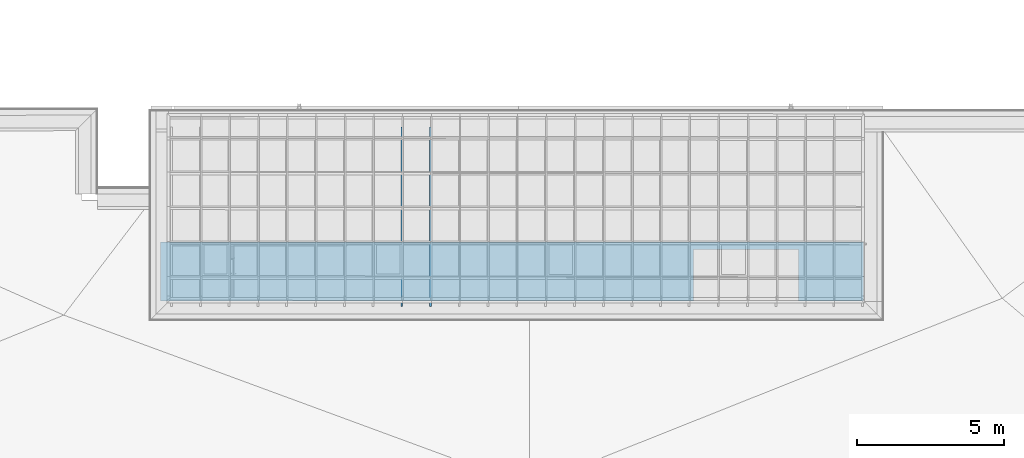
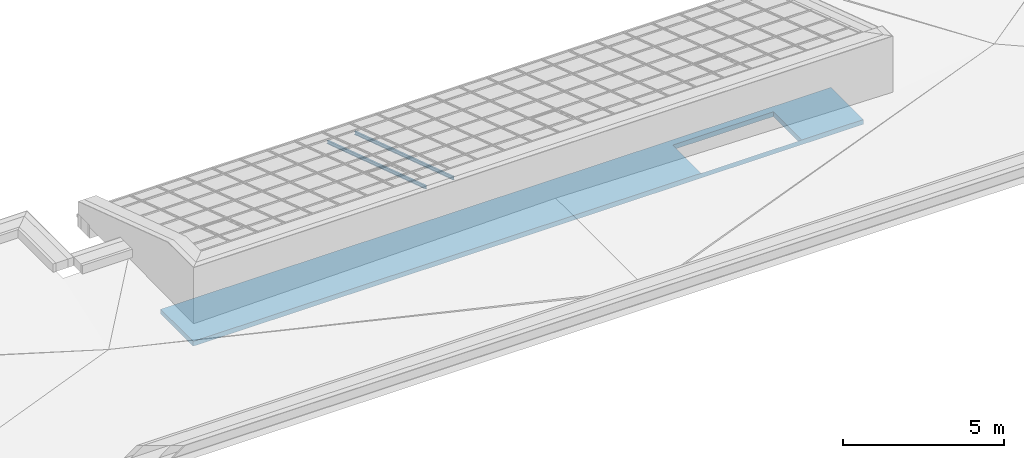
# One storey, part 5 of 47: 2 beams, 1 member, 1 opening.
"""IFC2X3 building model written with IfcOpenShell, lengths in millimetres."""

import ifcopenshell
import ifcopenshell.guid

model = None  # the IFC model being written
_history = None  # IfcOwnerHistory: only IFC2X3 demands one
_inside = {}  # id of a spatial element -> (the spatial element, [elements in it])
_under = {}  # id of a project, library or spatial element -> (it, [spatial elements below it])
_declared = {}  # id of a project -> (the project, [libraries it declares])
_typed = {}  # id of a type object -> (the type object, [elements of that type])
_made_of = {}  # id of a material, layer set ... -> (it, [elements and type objects made of it])


def new_model(schema):
    """Start an empty IFC model of exactly this schema.

    Asked for "IFC4X3", IfcOpenShell would pick the latest addendum, in which some entities
    have other attributes; the version numbers below select the first issue.
    IFC2X3 requires an IfcOwnerHistory on every rooted entity: one is made here for all.
    """
    global model, _history
    if schema == "IFC4X3":
        model = ifcopenshell.file(schema_version=(4, 3, 0, 0))
    else:
        model = ifcopenshell.file(schema=schema)
    _inside.clear()
    _under.clear()
    _declared.clear()
    _typed.clear()
    _made_of.clear()
    _history = None
    if model.schema == "IFC2X3":
        org = make("IfcOrganization", Name="unknown")
        user = make(
            "IfcPersonAndOrganization",
            ThePerson=make("IfcPerson", FamilyName="unknown"),
            TheOrganization=org,
        )
        app = make(
            "IfcApplication",
            ApplicationDeveloper=org,
            Version="unknown",
            ApplicationFullName="unknown",
            ApplicationIdentifier="unknown",
        )
        _history = make(
            "IfcOwnerHistory",
            OwningUser=user,
            OwningApplication=app,
            ChangeAction="ADDED",
            CreationDate=0,
        )
    return model


def make(cls, **values):
    """One entity of the class cls with the attributes given. An attribute that is None is left unset."""
    return model.create_entity(
        cls, **{name: value for name, value in values.items() if value is not None}
    )


def entity(cls, *values):
    """Any entity or typed value of the class cls, its attributes in the order of the schema. None: left unset."""
    e = model.create_entity(cls)
    for i, value in enumerate(values):
        if value is not None:
            e[i] = value
    return e


def rooted(cls, **values):
    """An entity with a GlobalId (a new one), such as an element, a storey or a relation."""
    return make(cls, GlobalId=ifcopenshell.guid.new(), OwnerHistory=_history, **values)


def si_unit(unit_type, name, prefix=None):
    """IfcSIUnit, for example si_unit("LENGTHUNIT", "METRE", prefix="MILLI")."""
    return make("IfcSIUnit", UnitType=unit_type, Prefix=prefix, Name=name)


def converted_unit(unit_type, name, factor, base, dimensions=None, offset=None):
    """IfcConversionBasedUnit, such as the inch: factor (a typed value) times the base unit."""
    return make(
        "IfcConversionBasedUnit"
        if offset is None
        else "IfcConversionBasedUnitWithOffset",
        ConversionOffset=offset,
        Dimensions=None
        if dimensions is None
        else entity("IfcDimensionalExponents", *dimensions),
        UnitType=unit_type,
        Name=name,
        ConversionFactor=make(
            "IfcMeasureWithUnit", ValueComponent=factor, UnitComponent=base
        ),
    )


def derived_unit(unit_type, elements):
    """IfcDerivedUnit: a product of units, each with its exponent."""
    return make(
        "IfcDerivedUnit",
        Elements=[
            make("IfcDerivedUnitElement", Unit=unit, Exponent=power)
            for unit, power in elements
        ],
        UnitType=unit_type,
    )


def money_unit(currency):
    """IfcMonetaryUnit."""
    return make("IfcMonetaryUnit", Currency=currency)


def assignment(units):
    """IfcUnitAssignment: the units of a project."""
    return None if units is None else make("IfcUnitAssignment", Units=units)


def point(xyz):
    """IfcCartesianPoint."""
    return None if xyz is None else make("IfcCartesianPoint", Coordinates=xyz)


def direction(xyz):
    """IfcDirection."""
    return None if xyz is None else make("IfcDirection", DirectionRatios=xyz)


def frame(location, z_axis=None, x_axis=None):
    """IfcAxis2Placement3D, a coordinate frame: its origin and axes. An axis left out is left unset."""
    return make(
        "IfcAxis2Placement3D",
        Location=point(location),
        Axis=direction(z_axis),
        RefDirection=direction(x_axis),
    )


def frame_2d(location, x_axis=None):
    """IfcAxis2Placement2D, a coordinate frame in the plane: its origin and x axis."""
    return make(
        "IfcAxis2Placement2D", Location=point(location), RefDirection=direction(x_axis)
    )


def origin_with_axes():
    """The frame at (0, 0, 0) with the z axis (0, 0, 1) and the x axis (1, 0, 0) written out."""
    return frame((0.0, 0.0, 0.0), z_axis=(0.0, 0.0, 1.0), x_axis=(1.0, 0.0, 0.0))


def place(relative_to, where):
    """IfcLocalPlacement: puts the frame where relative to a parent placement (None: the world)."""
    return make(
        "IfcLocalPlacement", PlacementRelTo=relative_to, RelativePlacement=where
    )


def context(
    kind, dimensions, precision=None, world=None, true_north=None, identifier=None
):
    """IfcGeometricRepresentationContext, for example the 3D "Model" context."""
    return make(
        "IfcGeometricRepresentationContext",
        ContextIdentifier=identifier,
        ContextType=kind,
        CoordinateSpaceDimension=dimensions,
        Precision=precision,
        WorldCoordinateSystem=world,
        TrueNorth=true_north,
    )


def subcontext(parent, identifier, kind, view, scale=None):
    """IfcGeometricRepresentationSubContext, for example "Body" below "Model"."""
    return make(
        "IfcGeometricRepresentationSubContext",
        ContextIdentifier=identifier,
        ContextType=kind,
        ParentContext=parent,
        TargetScale=scale,
        TargetView=view,
    )


def project(units=None, contexts=None):
    """IfcProject with its units and contexts."""
    return rooted(
        "IfcProject",
        Name="project",
        RepresentationContexts=contexts,
        UnitsInContext=assignment(units),
    )


def spatial(cls, under=None, at=None, **own):
    """A site, building, storey or space (cls), placed at a placement, below another one or the project."""
    s = rooted(cls, ObjectPlacement=at, **own)
    if under is not None:
        _under.setdefault(under.id(), (under, []))[1].append(s)
    return s


def polyline(points):
    """IfcPolyline through the points."""
    return make("IfcPolyline", Points=[point(p) for p in points])


def circle_curve(where, radius):
    """IfcCircle in the frame where."""
    return make("IfcCircle", Position=where, Radius=radius)


def parameter(value):
    """IfcParameterValue: where a trimmed curve begins or ends, as a parameter of its basis curve."""
    return model.create_entity("IfcParameterValue", value)


def trimmed(basis, trim1, trim2, sense, master):
    """IfcTrimmedCurve: the piece of a basis curve between two trims."""
    return make(
        "IfcTrimmedCurve",
        BasisCurve=basis,
        Trim1=trim1,
        Trim2=trim2,
        SenseAgreement=sense,
        MasterRepresentation=master,
    )


def segment(curve, same_sense, transition):
    """IfcCompositeCurveSegment."""
    return make(
        "IfcCompositeCurveSegment",
        Transition=transition,
        SameSense=same_sense,
        ParentCurve=curve,
    )


def composite_curve(segments, self_intersect=None):
    """IfcCompositeCurve: segments joined end to end."""
    return make("IfcCompositeCurve", Segments=segments, SelfIntersect=self_intersect)


def outline(outer, holes=None, kind="AREA"):
    """IfcArbitraryClosedProfileDef: a profile drawn as a closed curve; with holes, ...WithVoids."""
    if holes is None:
        return make("IfcArbitraryClosedProfileDef", ProfileType=kind, OuterCurve=outer)
    return make(
        "IfcArbitraryProfileDefWithVoids",
        ProfileType=kind,
        OuterCurve=outer,
        InnerCurves=holes,
    )


def extrude(swept, where, along, depth):
    """IfcExtrudedAreaSolid: the profile swept, set in the frame where, extruded along a direction by depth."""
    return make(
        "IfcExtrudedAreaSolid",
        SweptArea=swept,
        Position=where,
        ExtrudedDirection=direction(along),
        Depth=depth,
    )


def clip(a, b, op="DIFFERENCE"):
    """IfcBooleanClippingResult: the solid a cut by the half space b."""
    return make(
        "IfcBooleanClippingResult", Operator=op, FirstOperand=a, SecondOperand=b
    )


def halfspace(plane, agree):
    """IfcHalfSpaceSolid: all space on one side of the plane z = 0 of the frame plane."""
    return make(
        "IfcHalfSpaceSolid",
        BaseSurface=make("IfcPlane", Position=plane),
        AgreementFlag=agree,
    )


def shape(context_of_items, identifier, shape_type, items):
    """IfcShapeRepresentation: the items that make up one representation, for example the "Body"."""
    return make(
        "IfcShapeRepresentation",
        ContextOfItems=context_of_items,
        RepresentationIdentifier=identifier,
        RepresentationType=shape_type,
        Items=items,
    )


def material(Name=None, Category=None):
    """IfcMaterial."""
    return make("IfcMaterial", Name=Name, Category=Category)


def made_of(thing, what):
    """Note that an element or type object is made of a material, layer set ...; save() writes the relation."""
    if what is not None:
        _made_of.setdefault(what.id(), (what, []))[1].append(thing)
    return thing


def type_object(cls, material=None, **own):
    """A type object (cls), such as IfcWallType, which elements share."""
    return made_of(rooted(cls, **own), material)


def element(
    cls,
    number,
    at=None,
    inside=None,
    cuts=None,
    type_object=None,
    material=None,
    context=None,
    identifier="Body",
    shape_type=None,
    held_by="IfcProductDefinitionShape",
    body=None,
    shapes=None,
    **own,
):
    """One element of the class cls, such as IfcWall. Its Tag is "e" and its number.

    at: its placement. inside: the storey or other place that contains it. cuts: it is an
    opening in that element (IfcRelVoidsElement). A single representation is given by context,
    identifier, shape_type and body (its items); several are given by shapes. held_by: the class
    of the entity that holds the representations. save() writes the other relations.
    """
    e = rooted(cls, Tag="e%d" % number, ObjectPlacement=at, **own)
    if body is not None:
        shapes = [shape(context, identifier, shape_type, body)]
    if shapes is not None:
        e.Representation = make(held_by, Representations=shapes)
    if inside is not None:
        _inside.setdefault(inside.id(), (inside, []))[1].append(e)
    if cuts is not None:
        rooted(
            "IfcRelVoidsElement", RelatingBuildingElement=cuts, RelatedOpeningElement=e
        )
    if type_object is not None:
        _typed.setdefault(type_object.id(), (type_object, []))[1].append(e)
    return made_of(e, material)


def aggregate(whole, parts):
    """IfcRelAggregates: a whole, such as a stair, and the parts it consists of."""
    return rooted("IfcRelAggregates", RelatingObject=whole, RelatedObjects=parts)


def save(model, path):
    """Write the relations noted so far, then the file.

    IfcRelAggregates (storeys below a building ...), IfcRelContainedInSpatialStructure (elements
    in a storey), IfcRelDefinesByType, IfcRelAssociatesMaterial and IfcRelDeclares: one each for
    every whole, place, type object, material and project.
    """
    for whole, parts in _under.values():
        aggregate(whole, parts)
    for where, things in _inside.values():
        rooted(
            "IfcRelContainedInSpatialStructure",
            RelatedElements=things,
            RelatingStructure=where,
        )
    for kind, things in _typed.values():
        rooted("IfcRelDefinesByType", RelatedObjects=things, RelatingType=kind)
    for what, things in _made_of.values():
        rooted("IfcRelAssociatesMaterial", RelatedObjects=things, RelatingMaterial=what)
    for by, libraries in _declared.values():
        rooted("IfcRelDeclares", RelatingContext=by, RelatedDefinitions=libraries)
    model.write(path)


model = new_model("IFC2X3")

# Units and contexts
model_context = context("Model", 3, precision=1e-05, world=origin_with_axes(), true_north=direction((0.0, 1.0)))
body_context = subcontext(model_context, "Body", "Model", "MODEL_VIEW")
ifc_project = project(units=[si_unit("LENGTHUNIT", "METRE", prefix="MILLI"), si_unit("AREAUNIT", "SQUARE_METRE"), si_unit("VOLUMEUNIT", "CUBIC_METRE"), converted_unit("PLANEANGLEUNIT", "DEGREE", entity("IfcPlaneAngleMeasure", 0.0174532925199), si_unit("PLANEANGLEUNIT", "RADIAN"), dimensions=[0, 0, 0, 0, 0, 0, 0]), si_unit("SOLIDANGLEUNIT", "STERADIAN"), money_unit("EUR"), converted_unit("TIMEUNIT", "Year", entity("IfcTimeMeasure", 31556926.0), si_unit("TIMEUNIT", "SECOND"), dimensions=[0, 0, 1, 0, 0, 0, 0]), si_unit("MASSUNIT", "GRAM", prefix="KILO"), si_unit("THERMODYNAMICTEMPERATUREUNIT", "DEGREE_CELSIUS"), si_unit("LUMINOUSINTENSITYUNIT", "LUMEN"), si_unit("ENERGYUNIT", "JOULE", prefix="MEGA"), derived_unit("THERMALCONDUCTANCEUNIT", [(si_unit("POWERUNIT", "WATT"), 1), (si_unit("LENGTHUNIT", "METRE"), -1), (si_unit("THERMODYNAMICTEMPERATUREUNIT", "KELVIN"), -1)]), derived_unit("SPECIFICHEATCAPACITYUNIT", [(si_unit("ENERGYUNIT", "JOULE"), 1), (si_unit("MASSUNIT", "GRAM", prefix="KILO"), -1), (si_unit("THERMODYNAMICTEMPERATUREUNIT", "KELVIN"), -1)]), derived_unit("MASSDENSITYUNIT", [(si_unit("MASSUNIT", "GRAM", prefix="KILO"), 1), (si_unit("VOLUMEUNIT", "CUBIC_METRE"), -1)])], contexts=[model_context])

# Site, building, storey
site_placement = place(None, origin_with_axes())
site = spatial("IfcSite", under=ifc_project, at=site_placement, Name="Site", CompositionType="ELEMENT")
building_placement = place(site_placement, origin_with_axes())
building = spatial("IfcBuilding", under=site, at=building_placement, Name="Building", CompositionType="ELEMENT")
storey_placement = place(building_placement, frame((0.0, 0.0, 6000.0), z_axis=(0.0, 0.0, 1.0), x_axis=(1.0, 0.0, 0.0)))
storey = spatial("IfcBuildingStorey", under=building, at=storey_placement, Name="KATUSEPLAAN", CompositionType="ELEMENT", Elevation=6000.0)

# Beams
ifc_material_1 = material(Name="Teras (1)")
beam_type = type_object("IfcBeamType", Name="IPE 120", PredefinedType="NOTDEFINED")
beam_1_placement = place(storey_placement, frame((73083.081763, 46947.8063411, 711.763952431), z_axis=(0.0, 0.0, 1.0), x_axis=(-1.0, 0.0, 0.0)))
element("IfcBeam", 1, at=beam_1_placement, inside=storey, type_object=beam_type, material=ifc_material_1, Name="I Joist - Steel", ObjectType="I Joist - Steel 64 x 120", context=body_context, shape_type="Clipping", body=[
    clip(clip(extrude(outline(composite_curve([segment(polyline([(32.0018479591, -120.000212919), (32.0018479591, -117.505222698)]), True, "CONTINUOUS"), segment(trimmed(circle_curve(frame_2d((27.3321376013, -117.498683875), x_axis=(0.999999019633, -0.00140026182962)), 4.66971493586), [point((32.0018479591, -117.505222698)), parameter(0.0)], [point((31.7461003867, -115.974488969)), parameter(19.1306436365)], True, "CARTESIAN"), True, "CONTINUOUS"), segment(trimmed(circle_curve(frame_2d((27.8471066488, -117.309508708), x_axis=(0.94607823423, 0.323938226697)), 4.12121703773), [point((31.7461003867, -115.974488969)), parameter(0.0)], [point((31.017792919, -114.676795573)), parameter(20.802576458)], True, "CARTESIAN"), True, "CONTINUOUS"), segment(trimmed(circle_curve(frame_2d((28.4090653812, -116.837495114), x_axis=(0.770140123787, 0.637874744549)), 3.38734141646), [point((31.017792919, -114.676795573)), parameter(0.0)], [point((29.9278037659, -113.809704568)), parameter(23.7281511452)], True, "CARTESIAN"), True, "CONTINUOUS"), segment(trimmed(circle_curve(frame_2d((28.6333599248, -116.404648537), x_axis=(0.446378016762, 0.89484449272)), 2.89988259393), [point((29.9278037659, -113.809704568)), parameter(0.0)], [point((29.1110817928, -113.544386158)), parameter(17.0295027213)], True, "CARTESIAN"), True, "CONTINUOUS"), segment(polyline([(29.1110817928, -113.544386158), (5.24260801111, -109.566039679)]), True, "CONTINUOUS"), segment(trimmed(circle_curve(frame_2d((5.72032987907, -106.7057773), x_axis=(-0.446378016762, -0.89484449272)), 2.89988259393), [point((5.24260801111, -109.566039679)), parameter(17.0295027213)], [point((4.42588603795, -109.300721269)), parameter(0.0)], False, "CARTESIAN"), True, "CONTINUOUS"), segment(trimmed(circle_curve(frame_2d((5.94462442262, -106.272930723), x_axis=(-0.770140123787, -0.637874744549)), 3.38734141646), [point((4.42588603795, -109.300721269)), parameter(23.7281511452)], [point((3.33589688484, -108.433630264)), parameter(0.0)], False, "CARTESIAN"), True, "CONTINUOUS"), segment(trimmed(circle_curve(frame_2d((6.5065831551, -105.800917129), x_axis=(-0.94607823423, -0.323938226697)), 4.12121703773), [point((3.33589688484, -108.433630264)), parameter(20.802576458)], [point((2.60758941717, -107.135936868)), parameter(0.0)], False, "CARTESIAN"), True, "CONTINUOUS"), segment(trimmed(circle_curve(frame_2d((7.02155220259, -105.611741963), x_axis=(-0.999999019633, 0.00140026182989)), 4.66971493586), [point((2.60758941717, -107.135936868)), parameter(19.1306436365)], [point((2.35184184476, -105.605203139)), parameter(0.0)], False, "CARTESIAN"), True, "CONTINUOUS"), segment(polyline([(2.35184184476, -105.605203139), (2.35184184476, -14.3950097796)]), True, "CONTINUOUS"), segment(trimmed(circle_curve(frame_2d((7.02155220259, -14.3884709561), x_axis=(-0.945231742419, 0.326399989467)), 4.66971493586), [point((2.35184184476, -14.3950097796)), parameter(19.1306436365)], [point((2.60758941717, -12.8642760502)), parameter(0.0)], False, "CARTESIAN"), True, "CONTINUOUS"), segment(trimmed(circle_curve(frame_2d((6.5065831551, -14.1992957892), x_axis=(-0.769356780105, 0.638819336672)), 4.12121703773), [point((2.60758941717, -12.8642760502)), parameter(20.802576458)], [point((3.33589688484, -11.5665826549)), parameter(0.0)], False, "CARTESIAN"), True, "CONTINUOUS"), segment(trimmed(circle_curve(frame_2d((5.94462442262, -13.7272821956), x_axis=(-0.44835704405, 0.893854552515)), 3.38734141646), [point((3.33589688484, -11.5665826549)), parameter(23.7281511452)], [point((4.42588603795, -10.6994916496)), parameter(0.0)], False, "CARTESIAN"), True, "CONTINUOUS"), segment(trimmed(circle_curve(frame_2d((5.72032987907, -13.2944356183), x_axis=(-0.164738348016, 0.986337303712)), 2.89988259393), [point((4.42588603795, -10.6994916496)), parameter(17.0295027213)], [point((5.24260801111, -10.4341732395)), parameter(0.0)], False, "CARTESIAN"), True, "CONTINUOUS"), segment(polyline([(5.24260801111, -10.4341732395), (29.1110817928, -6.45582676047)]), True, "CONTINUOUS"), segment(trimmed(circle_curve(frame_2d((28.6333599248, -3.59556438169), x_axis=(0.164738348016, -0.986337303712)), 2.89988259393), [point((29.1110817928, -6.45582676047)), parameter(0.0)], [point((29.9278037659, -6.19050835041)), parameter(17.0295027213)], True, "CARTESIAN"), True, "CONTINUOUS"), segment(trimmed(circle_curve(frame_2d((28.4090653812, -3.16271780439), x_axis=(0.44835704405, -0.893854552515)), 3.38734141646), [point((29.9278037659, -6.19050835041)), parameter(0.0)], [point((31.017792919, -5.32341734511)), parameter(23.7281511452)], True, "CARTESIAN"), True, "CONTINUOUS"), segment(trimmed(circle_curve(frame_2d((27.8471066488, -2.69070421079), x_axis=(0.769356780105, -0.638819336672)), 4.12121703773), [point((31.017792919, -5.32341734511)), parameter(0.0)], [point((31.7461003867, -4.02572394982)), parameter(20.802576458)], True, "CARTESIAN"), True, "CONTINUOUS"), segment(trimmed(circle_curve(frame_2d((27.3321376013, -2.50152904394), x_axis=(0.945231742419, -0.326399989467)), 4.66971493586), [point((31.7461003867, -4.02572394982)), parameter(0.0)], [point((32.0018479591, -2.49499022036)), parameter(19.1306436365)], True, "CARTESIAN"), True, "CONTINUOUS"), segment(polyline([(32.0018479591, -2.49499022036), (32.0018479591, 0.0), (-32.0018479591, 0.0), (-32.0018479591, -2.49499022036)]), True, "CONTINUOUS"), segment(trimmed(circle_curve(frame_2d((-27.3321376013, -2.50152904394), x_axis=(-0.999999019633, 0.00140026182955)), 4.66971493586), [point((-32.0018479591, -2.49499022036)), parameter(0.0)], [point((-31.7461003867, -4.02572394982)), parameter(19.1306436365)], True, "CARTESIAN"), True, "CONTINUOUS"), segment(trimmed(circle_curve(frame_2d((-27.8471066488, -2.69070421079), x_axis=(-0.94607823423, -0.323938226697)), 4.12121703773), [point((-31.7461003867, -4.02572394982)), parameter(0.0)], [point((-31.017792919, -5.32341734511)), parameter(20.802576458)], True, "CARTESIAN"), True, "CONTINUOUS"), segment(trimmed(circle_curve(frame_2d((-28.4090653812, -3.16271780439), x_axis=(-0.770140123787, -0.637874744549)), 3.38734141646), [point((-31.017792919, -5.32341734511)), parameter(0.0)], [point((-29.9278037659, -6.19050835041)), parameter(23.7281511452)], True, "CARTESIAN"), True, "CONTINUOUS"), segment(trimmed(circle_curve(frame_2d((-28.6333599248, -3.59556438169), x_axis=(-0.446378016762, -0.89484449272)), 2.89988259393), [point((-29.9278037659, -6.19050835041)), parameter(0.0)], [point((-29.1110817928, -6.45582676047)), parameter(17.0295027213)], True, "CARTESIAN"), True, "CONTINUOUS"), segment(polyline([(-29.1110817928, -6.45582676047), (-5.24260801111, -10.4341732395)]), True, "CONTINUOUS"), segment(trimmed(circle_curve(frame_2d((-5.72032987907, -13.2944356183), x_axis=(0.446378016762, 0.89484449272)), 2.89988259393), [point((-5.24260801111, -10.4341732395)), parameter(17.0295027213)], [point((-4.42588603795, -10.6994916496)), parameter(0.0)], False, "CARTESIAN"), True, "CONTINUOUS"), segment(trimmed(circle_curve(frame_2d((-5.94462442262, -13.7272821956), x_axis=(0.770140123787, 0.637874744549)), 3.38734141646), [point((-4.42588603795, -10.6994916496)), parameter(23.7281511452)], [point((-3.33589688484, -11.5665826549)), parameter(0.0)], False, "CARTESIAN"), True, "CONTINUOUS"), segment(trimmed(circle_curve(frame_2d((-6.5065831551, -14.1992957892), x_axis=(0.94607823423, 0.323938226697)), 4.12121703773), [point((-3.33589688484, -11.5665826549)), parameter(20.802576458)], [point((-2.60758941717, -12.8642760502)), parameter(0.0)], False, "CARTESIAN"), True, "CONTINUOUS"), segment(trimmed(circle_curve(frame_2d((-7.02155220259, -14.3884709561), x_axis=(0.999999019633, -0.00140026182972)), 4.66971493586), [point((-2.60758941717, -12.8642760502)), parameter(19.1306436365)], [point((-2.35184184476, -14.3950097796)), parameter(0.0)], False, "CARTESIAN"), True, "CONTINUOUS"), segment(polyline([(-2.35184184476, -14.3950097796), (-2.35184184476, -105.605203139)]), True, "CONTINUOUS"), segment(trimmed(circle_curve(frame_2d((-7.02155220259, -105.611741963), x_axis=(0.945231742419, -0.326399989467)), 4.66971493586), [point((-2.35184184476, -105.605203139)), parameter(19.1306436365)], [point((-2.60758941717, -107.135936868)), parameter(0.0)], False, "CARTESIAN"), True, "CONTINUOUS"), segment(trimmed(circle_curve(frame_2d((-6.5065831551, -105.800917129), x_axis=(0.769356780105, -0.638819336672)), 4.12121703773), [point((-2.60758941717, -107.135936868)), parameter(20.802576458)], [point((-3.33589688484, -108.433630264)), parameter(0.0)], False, "CARTESIAN"), True, "CONTINUOUS"), segment(trimmed(circle_curve(frame_2d((-5.94462442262, -106.272930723), x_axis=(0.44835704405, -0.893854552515)), 3.38734141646), [point((-3.33589688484, -108.433630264)), parameter(23.7281511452)], [point((-4.42588603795, -109.300721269)), parameter(0.0)], False, "CARTESIAN"), True, "CONTINUOUS"), segment(trimmed(circle_curve(frame_2d((-5.72032987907, -106.7057773), x_axis=(0.164738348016, -0.986337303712)), 2.89988259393), [point((-4.42588603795, -109.300721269)), parameter(17.0295027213)], [point((-5.24260801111, -109.566039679)), parameter(0.0)], False, "CARTESIAN"), True, "CONTINUOUS"), segment(polyline([(-5.24260801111, -109.566039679), (-29.1110817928, -113.544386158)]), True, "CONTINUOUS"), segment(trimmed(circle_curve(frame_2d((-28.6333599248, -116.404648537), x_axis=(-0.164738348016, 0.986337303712)), 2.89988259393), [point((-29.1110817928, -113.544386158)), parameter(0.0)], [point((-29.9278037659, -113.809704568)), parameter(17.0295027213)], True, "CARTESIAN"), True, "CONTINUOUS"), segment(trimmed(circle_curve(frame_2d((-28.4090653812, -116.837495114), x_axis=(-0.44835704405, 0.893854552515)), 3.38734141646), [point((-29.9278037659, -113.809704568)), parameter(0.0)], [point((-31.017792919, -114.676795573)), parameter(23.7281511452)], True, "CARTESIAN"), True, "CONTINUOUS"), segment(trimmed(circle_curve(frame_2d((-27.8471066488, -117.309508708), x_axis=(-0.769356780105, 0.638819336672)), 4.12121703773), [point((-31.017792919, -114.676795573)), parameter(0.0)], [point((-31.7461003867, -115.974488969)), parameter(20.802576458)], True, "CARTESIAN"), True, "CONTINUOUS"), segment(trimmed(circle_curve(frame_2d((-27.3321376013, -117.498683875), x_axis=(-0.945231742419, 0.326399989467)), 4.66971493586), [point((-31.7461003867, -115.974488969)), parameter(0.0)], [point((-32.0018479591, -117.505222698)), parameter(19.1306436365)], True, "CARTESIAN"), True, "CONTINUOUS"), segment(polyline([(-32.0018479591, -117.505222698), (-32.0018479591, -120.000212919), (32.0018479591, -120.000212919)]), True, "CONTINUOUS")], self_intersect=False)), frame((0.0, 6177.44201598, 2007.17258333), z_axis=(0.0, 0.951056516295, 0.309016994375), x_axis=(-1.0, 0.0, 0.0)), (0.0, 0.0, -1.0), 6550.487721), halfspace(frame((0.0, 6125.0, 0.0), z_axis=(0.0, -1.0, 0.0), x_axis=(0.0, 0.0, -1.0)), True)), halfspace(frame((0.0, 0.0, 0.0), z_axis=(0.0, 1.0, 0.0), x_axis=(0.0, 0.0, 1.0)), True)),
])
beam_2_placement = place(storey_placement, frame((72103.0504974, 46947.8063411, 707.507540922), z_axis=(0.0, 0.0, 1.0), x_axis=(-1.0, 0.0, 0.0)))
element("IfcBeam", 2, at=beam_2_placement, inside=storey, type_object=beam_type, material=ifc_material_1, Name="I Joist - Steel", ObjectType="I Joist - Steel 64 x 120", context=body_context, shape_type="Clipping", body=[
    clip(clip(extrude(outline(composite_curve([segment(polyline([(32.0018479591, -120.000212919), (32.0018479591, -117.505222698)]), True, "CONTINUOUS"), segment(trimmed(circle_curve(frame_2d((27.3321376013, -117.498683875), x_axis=(0.999999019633, -0.00140026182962)), 4.66971493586), [point((32.0018479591, -117.505222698)), parameter(0.0)], [point((31.7461003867, -115.974488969)), parameter(19.1306436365)], True, "CARTESIAN"), True, "CONTINUOUS"), segment(trimmed(circle_curve(frame_2d((27.8471066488, -117.309508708), x_axis=(0.94607823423, 0.323938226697)), 4.12121703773), [point((31.7461003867, -115.974488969)), parameter(0.0)], [point((31.017792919, -114.676795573)), parameter(20.802576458)], True, "CARTESIAN"), True, "CONTINUOUS"), segment(trimmed(circle_curve(frame_2d((28.4090653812, -116.837495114), x_axis=(0.770140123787, 0.637874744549)), 3.38734141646), [point((31.017792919, -114.676795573)), parameter(0.0)], [point((29.9278037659, -113.809704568)), parameter(23.7281511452)], True, "CARTESIAN"), True, "CONTINUOUS"), segment(trimmed(circle_curve(frame_2d((28.6333599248, -116.404648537), x_axis=(0.446378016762, 0.89484449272)), 2.89988259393), [point((29.9278037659, -113.809704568)), parameter(0.0)], [point((29.1110817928, -113.544386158)), parameter(17.0295027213)], True, "CARTESIAN"), True, "CONTINUOUS"), segment(polyline([(29.1110817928, -113.544386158), (5.24260801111, -109.566039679)]), True, "CONTINUOUS"), segment(trimmed(circle_curve(frame_2d((5.72032987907, -106.7057773), x_axis=(-0.446378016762, -0.89484449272)), 2.89988259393), [point((5.24260801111, -109.566039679)), parameter(17.0295027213)], [point((4.42588603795, -109.300721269)), parameter(0.0)], False, "CARTESIAN"), True, "CONTINUOUS"), segment(trimmed(circle_curve(frame_2d((5.94462442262, -106.272930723), x_axis=(-0.770140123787, -0.637874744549)), 3.38734141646), [point((4.42588603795, -109.300721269)), parameter(23.7281511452)], [point((3.33589688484, -108.433630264)), parameter(0.0)], False, "CARTESIAN"), True, "CONTINUOUS"), segment(trimmed(circle_curve(frame_2d((6.5065831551, -105.800917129), x_axis=(-0.94607823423, -0.323938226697)), 4.12121703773), [point((3.33589688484, -108.433630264)), parameter(20.802576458)], [point((2.60758941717, -107.135936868)), parameter(0.0)], False, "CARTESIAN"), True, "CONTINUOUS"), segment(trimmed(circle_curve(frame_2d((7.02155220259, -105.611741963), x_axis=(-0.999999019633, 0.00140026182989)), 4.66971493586), [point((2.60758941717, -107.135936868)), parameter(19.1306436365)], [point((2.35184184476, -105.605203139)), parameter(0.0)], False, "CARTESIAN"), True, "CONTINUOUS"), segment(polyline([(2.35184184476, -105.605203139), (2.35184184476, -14.3950097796)]), True, "CONTINUOUS"), segment(trimmed(circle_curve(frame_2d((7.02155220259, -14.3884709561), x_axis=(-0.945231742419, 0.326399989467)), 4.66971493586), [point((2.35184184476, -14.3950097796)), parameter(19.1306436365)], [point((2.60758941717, -12.8642760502)), parameter(0.0)], False, "CARTESIAN"), True, "CONTINUOUS"), segment(trimmed(circle_curve(frame_2d((6.5065831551, -14.1992957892), x_axis=(-0.769356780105, 0.638819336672)), 4.12121703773), [point((2.60758941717, -12.8642760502)), parameter(20.802576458)], [point((3.33589688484, -11.5665826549)), parameter(0.0)], False, "CARTESIAN"), True, "CONTINUOUS"), segment(trimmed(circle_curve(frame_2d((5.94462442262, -13.7272821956), x_axis=(-0.44835704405, 0.893854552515)), 3.38734141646), [point((3.33589688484, -11.5665826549)), parameter(23.7281511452)], [point((4.42588603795, -10.6994916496)), parameter(0.0)], False, "CARTESIAN"), True, "CONTINUOUS"), segment(trimmed(circle_curve(frame_2d((5.72032987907, -13.2944356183), x_axis=(-0.164738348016, 0.986337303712)), 2.89988259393), [point((4.42588603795, -10.6994916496)), parameter(17.0295027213)], [point((5.24260801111, -10.4341732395)), parameter(0.0)], False, "CARTESIAN"), True, "CONTINUOUS"), segment(polyline([(5.24260801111, -10.4341732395), (29.1110817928, -6.45582676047)]), True, "CONTINUOUS"), segment(trimmed(circle_curve(frame_2d((28.6333599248, -3.59556438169), x_axis=(0.164738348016, -0.986337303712)), 2.89988259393), [point((29.1110817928, -6.45582676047)), parameter(0.0)], [point((29.9278037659, -6.19050835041)), parameter(17.0295027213)], True, "CARTESIAN"), True, "CONTINUOUS"), segment(trimmed(circle_curve(frame_2d((28.4090653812, -3.16271780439), x_axis=(0.44835704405, -0.893854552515)), 3.38734141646), [point((29.9278037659, -6.19050835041)), parameter(0.0)], [point((31.017792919, -5.32341734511)), parameter(23.7281511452)], True, "CARTESIAN"), True, "CONTINUOUS"), segment(trimmed(circle_curve(frame_2d((27.8471066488, -2.69070421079), x_axis=(0.769356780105, -0.638819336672)), 4.12121703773), [point((31.017792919, -5.32341734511)), parameter(0.0)], [point((31.7461003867, -4.02572394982)), parameter(20.802576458)], True, "CARTESIAN"), True, "CONTINUOUS"), segment(trimmed(circle_curve(frame_2d((27.3321376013, -2.50152904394), x_axis=(0.945231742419, -0.326399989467)), 4.66971493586), [point((31.7461003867, -4.02572394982)), parameter(0.0)], [point((32.0018479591, -2.49499022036)), parameter(19.1306436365)], True, "CARTESIAN"), True, "CONTINUOUS"), segment(polyline([(32.0018479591, -2.49499022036), (32.0018479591, 0.0), (-32.0018479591, 0.0), (-32.0018479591, -2.49499022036)]), True, "CONTINUOUS"), segment(trimmed(circle_curve(frame_2d((-27.3321376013, -2.50152904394), x_axis=(-0.999999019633, 0.00140026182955)), 4.66971493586), [point((-32.0018479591, -2.49499022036)), parameter(0.0)], [point((-31.7461003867, -4.02572394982)), parameter(19.1306436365)], True, "CARTESIAN"), True, "CONTINUOUS"), segment(trimmed(circle_curve(frame_2d((-27.8471066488, -2.69070421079), x_axis=(-0.94607823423, -0.323938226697)), 4.12121703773), [point((-31.7461003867, -4.02572394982)), parameter(0.0)], [point((-31.017792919, -5.32341734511)), parameter(20.802576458)], True, "CARTESIAN"), True, "CONTINUOUS"), segment(trimmed(circle_curve(frame_2d((-28.4090653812, -3.16271780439), x_axis=(-0.770140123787, -0.637874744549)), 3.38734141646), [point((-31.017792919, -5.32341734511)), parameter(0.0)], [point((-29.9278037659, -6.19050835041)), parameter(23.7281511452)], True, "CARTESIAN"), True, "CONTINUOUS"), segment(trimmed(circle_curve(frame_2d((-28.6333599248, -3.59556438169), x_axis=(-0.446378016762, -0.89484449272)), 2.89988259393), [point((-29.9278037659, -6.19050835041)), parameter(0.0)], [point((-29.1110817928, -6.45582676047)), parameter(17.0295027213)], True, "CARTESIAN"), True, "CONTINUOUS"), segment(polyline([(-29.1110817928, -6.45582676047), (-5.24260801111, -10.4341732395)]), True, "CONTINUOUS"), segment(trimmed(circle_curve(frame_2d((-5.72032987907, -13.2944356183), x_axis=(0.446378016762, 0.89484449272)), 2.89988259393), [point((-5.24260801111, -10.4341732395)), parameter(17.0295027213)], [point((-4.42588603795, -10.6994916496)), parameter(0.0)], False, "CARTESIAN"), True, "CONTINUOUS"), segment(trimmed(circle_curve(frame_2d((-5.94462442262, -13.7272821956), x_axis=(0.770140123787, 0.637874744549)), 3.38734141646), [point((-4.42588603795, -10.6994916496)), parameter(23.7281511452)], [point((-3.33589688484, -11.5665826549)), parameter(0.0)], False, "CARTESIAN"), True, "CONTINUOUS"), segment(trimmed(circle_curve(frame_2d((-6.5065831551, -14.1992957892), x_axis=(0.94607823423, 0.323938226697)), 4.12121703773), [point((-3.33589688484, -11.5665826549)), parameter(20.802576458)], [point((-2.60758941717, -12.8642760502)), parameter(0.0)], False, "CARTESIAN"), True, "CONTINUOUS"), segment(trimmed(circle_curve(frame_2d((-7.02155220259, -14.3884709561), x_axis=(0.999999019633, -0.00140026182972)), 4.66971493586), [point((-2.60758941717, -12.8642760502)), parameter(19.1306436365)], [point((-2.35184184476, -14.3950097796)), parameter(0.0)], False, "CARTESIAN"), True, "CONTINUOUS"), segment(polyline([(-2.35184184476, -14.3950097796), (-2.35184184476, -105.605203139)]), True, "CONTINUOUS"), segment(trimmed(circle_curve(frame_2d((-7.02155220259, -105.611741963), x_axis=(0.945231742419, -0.326399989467)), 4.66971493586), [point((-2.35184184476, -105.605203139)), parameter(19.1306436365)], [point((-2.60758941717, -107.135936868)), parameter(0.0)], False, "CARTESIAN"), True, "CONTINUOUS"), segment(trimmed(circle_curve(frame_2d((-6.5065831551, -105.800917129), x_axis=(0.769356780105, -0.638819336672)), 4.12121703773), [point((-2.60758941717, -107.135936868)), parameter(20.802576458)], [point((-3.33589688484, -108.433630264)), parameter(0.0)], False, "CARTESIAN"), True, "CONTINUOUS"), segment(trimmed(circle_curve(frame_2d((-5.94462442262, -106.272930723), x_axis=(0.44835704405, -0.893854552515)), 3.38734141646), [point((-3.33589688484, -108.433630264)), parameter(23.7281511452)], [point((-4.42588603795, -109.300721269)), parameter(0.0)], False, "CARTESIAN"), True, "CONTINUOUS"), segment(trimmed(circle_curve(frame_2d((-5.72032987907, -106.7057773), x_axis=(0.164738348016, -0.986337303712)), 2.89988259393), [point((-4.42588603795, -109.300721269)), parameter(17.0295027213)], [point((-5.24260801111, -109.566039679)), parameter(0.0)], False, "CARTESIAN"), True, "CONTINUOUS"), segment(polyline([(-5.24260801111, -109.566039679), (-29.1110817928, -113.544386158)]), True, "CONTINUOUS"), segment(trimmed(circle_curve(frame_2d((-28.6333599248, -116.404648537), x_axis=(-0.164738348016, 0.986337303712)), 2.89988259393), [point((-29.1110817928, -113.544386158)), parameter(0.0)], [point((-29.9278037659, -113.809704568)), parameter(17.0295027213)], True, "CARTESIAN"), True, "CONTINUOUS"), segment(trimmed(circle_curve(frame_2d((-28.4090653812, -116.837495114), x_axis=(-0.44835704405, 0.893854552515)), 3.38734141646), [point((-29.9278037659, -113.809704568)), parameter(0.0)], [point((-31.017792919, -114.676795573)), parameter(23.7281511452)], True, "CARTESIAN"), True, "CONTINUOUS"), segment(trimmed(circle_curve(frame_2d((-27.8471066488, -117.309508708), x_axis=(-0.769356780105, 0.638819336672)), 4.12121703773), [point((-31.017792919, -114.676795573)), parameter(0.0)], [point((-31.7461003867, -115.974488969)), parameter(20.802576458)], True, "CARTESIAN"), True, "CONTINUOUS"), segment(trimmed(circle_curve(frame_2d((-27.3321376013, -117.498683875), x_axis=(-0.945231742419, 0.326399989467)), 4.66971493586), [point((-31.7461003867, -115.974488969)), parameter(0.0)], [point((-32.0018479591, -117.505222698)), parameter(19.1306436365)], True, "CARTESIAN"), True, "CONTINUOUS"), segment(polyline([(-32.0018479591, -117.505222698), (-32.0018479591, -120.000212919), (32.0018479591, -120.000212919)]), True, "CONTINUOUS")], self_intersect=False)), frame((0.0, 6177.44201598, 2007.17258333), z_axis=(0.0, 0.951056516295, 0.309016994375), x_axis=(-1.0, 0.0, 0.0)), (0.0, 0.0, -1.0), 6550.487721), halfspace(frame((0.0, 6125.0, 0.0), z_axis=(0.0, -1.0, 0.0), x_axis=(0.0, 0.0, -1.0)), True)), halfspace(frame((0.0, 0.0, 0.0), z_axis=(0.0, 1.0, 0.0), x_axis=(0.0, 0.0, 1.0)), True)),
])

# Member, opening
ifc_material_2 = material(Name="Betoon - Ol.Olev konstruktsioon")
member_type = type_object("IfcMemberType", Name="SLA - 003", PredefinedType="NOTDEFINED")
member_placement = place(storey_placement, frame((63875.9834304, 43033.3475944, -432.549707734), z_axis=(0.0, 0.0, 1.0), x_axis=(1.0, 0.0, 0.0)))
member = element("IfcMember", 3, at=member_placement, inside=storey, type_object=member_type, material=ifc_material_2, Name="Betoon - Ol.Olev konstruktsioon", context=body_context, shape_type="SweptSolid", body=[
    extrude(outline(polyline([(0.0, 0.0), (0.0, -2018.11066267), (23970.3398108, -2018.11066267), (23968.7370072, -7.85171142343), (0.0, 0.0)])), frame((0.0, 0.0, -180.0), z_axis=(0.0, 0.0, 1.0), x_axis=(1.0, 0.0, 0.0)), (0.0, 0.0, 1.0), 180.0),
])
opening_placement = place(member_placement, origin_with_axes())
element("IfcOpeningElement", 4, at=opening_placement, cuts=member, Name="Slab Opening", context=body_context, shape_type="SweptSolid", body=[
    extrude(outline(polyline([(18166.9143422, -260.917499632), (18166.9143422, -2017.63499193), (21763.896185, -2017.63499193), (21763.896185, -260.917499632), (18166.9143422, -260.917499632)])), frame((0.0, 0.0, -180.0), z_axis=(0.0, 0.0, 1.0), x_axis=(1.0, 0.0, 0.0)), (0.0, 0.0, 1.0), 180.0),
])

save(model, "model.ifc")
